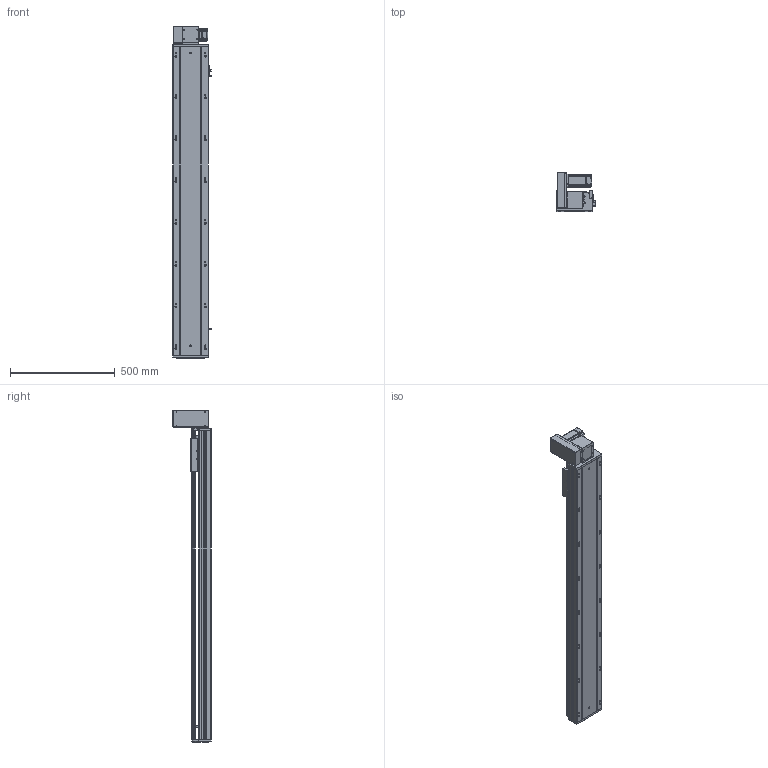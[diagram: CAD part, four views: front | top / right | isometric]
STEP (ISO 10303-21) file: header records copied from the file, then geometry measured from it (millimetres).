
FILE_DESCRIPTION (( 'STEP AP203' ), '1' );
FILE_NAME ('RY170-T-300-UL-P400W.SLDASM_1200.step', '2021-03-02T02:13:09', ( '盈信电脑' ), ( '东莞市道滘镇水果街19号' ), 'SwSTEP 2.0', 'SolidWorks 2012', '' );
FILE_SCHEMA (( 'CONFIG_CONTROL_DESIGN' ));
Products named in the file (18): 15; RY170-T-300-UL-P400W.SLDASM_1200; RY170同步轮电机安装板(400W); RY170-T蹟翐M4; 滅袉蝶18-10; RY170肮祭謫萇儂欶; RY120-T主同步轮轴承压盖; RY170翋肮祭謫釱; RY170-T肮祭謫裔啣; RY170-T肮祭湍揤踡輸1; RY170-T肮祭湍揤踡輸2; RY170綴裔啣; RY170外置感应片(200共用）; 覜茼ん672; RY170肮祭謫ヶ裔啣; RY170-T-300肮祭謫倰第菁釱-DL_1200; RY170肮祭湍臏賑輸; RY170-T-300肮祭謫倰第裔啣-DL_1200
Assembly tree (20 placements, depth 2):
  RY170-T-300-UL-P400W.SLDASM_1200
    RY170-T-300肮祭謫倰第菁釱-DL_1200
    RY170肮祭湍臏賑輸
    RY170-T-300肮祭謫倰第裔啣-DL_1200
    RY170綴裔啣
    覜茼ん672  x3
    RY170外置感应片(200共用）
    RY170肮祭謫ヶ裔啣
    RY170翋肮祭謫釱
    RY170-T肮祭湍揤踡輸1
    RY170-T肮祭湍揤踡輸2
    RY170-T肮祭謫裔啣
    滅袉蝶18-10  x2
    RY120-T主同步轮轴承压盖
    RY170肮祭謫萇儂欶
    RY170同步轮电机安装板(400W)
    RY170-T蹟翐M4
    15
Bounding box: 183.7 x 184 x 1588 mm (x, y, z)
Volume: 7714812.1 mm3; surface area: 2617415.8 mm2
Topology: 20 solids, 20 shells, 2617 faces, 7294 edges, 4661 vertices
Faces by surface type: cylinder 1188, plane 1147, cone 252, bspline 30
Entity records: 83304 total; most frequent: CARTESIAN_POINT 18585, ORIENTED_EDGE 13200, DIRECTION 12996, EDGE_CURVE 6600, AXIS2_PLACEMENT_3D 4574, VERTEX_POINT 4329, LINE 3848, VECTOR 3848
